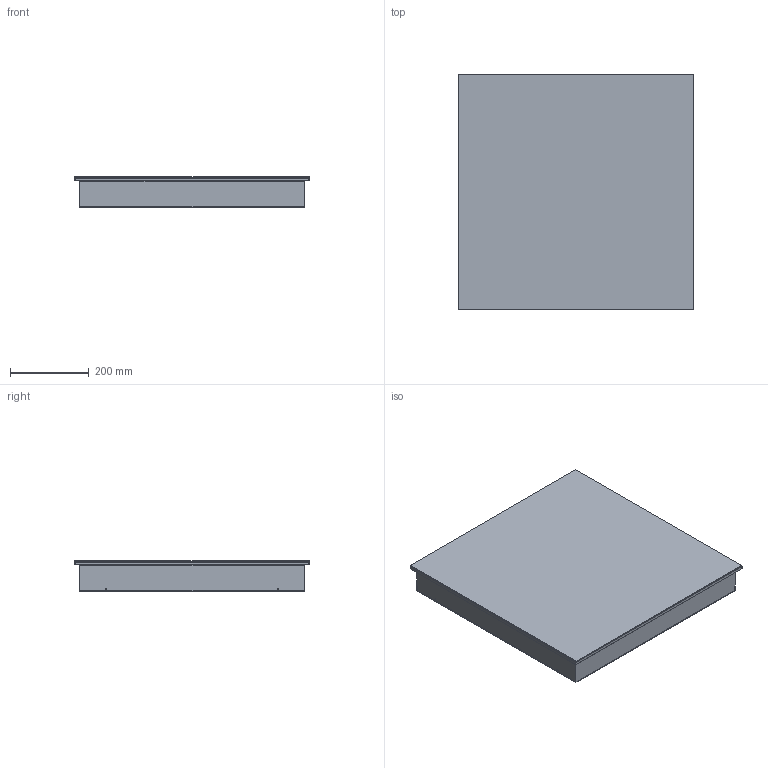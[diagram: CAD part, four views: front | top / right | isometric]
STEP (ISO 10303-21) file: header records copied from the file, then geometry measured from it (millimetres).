
FILE_DESCRIPTION(/* description */ (''),/* implementation_level */ '2;1');
FILE_NAME(/* name */ 'C:/Users/elena/Downloads/Coner QNQ 60.step',/* time_stamp */ '2020-06-17T13:04:02+02:00',/* author */ (''),/* organization */ (''),/* preprocessor_version */ 'ST-DEVELOPER v18.1',/* originating_system */ 'Autodesk Translation Framework v9.3.0.1241',/* authorisation */ '');
FILE_SCHEMA (('AUTOMOTIVE_DESIGN { 1 0 10303 214 3 1 1 }'));
Length unit declared in the file: millimetre
Products named in the file (1): (Unsaved)
Bounding box: 597 x 597 x 78 mm (x, y, z)
Volume: 1610644.1 mm3; surface area: 1805158.6 mm2
Topology: 2 solids, 2 shells, 46 faces, 117 edges, 78 vertices
Faces by surface type: plane 34, cylinder 8, bspline 4
Entity records: 2125 total; most frequent: CARTESIAN_POINT 983, ORIENTED_EDGE 234, DIRECTION 195, EDGE_CURVE 117, LINE 101, VECTOR 101, VERTEX_POINT 78, EDGE_LOOP 57
